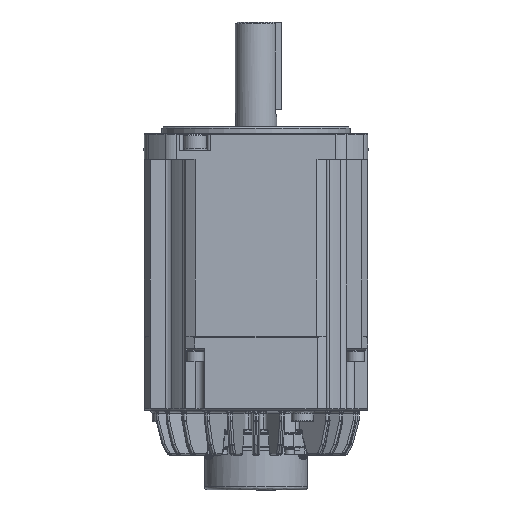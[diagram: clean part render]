
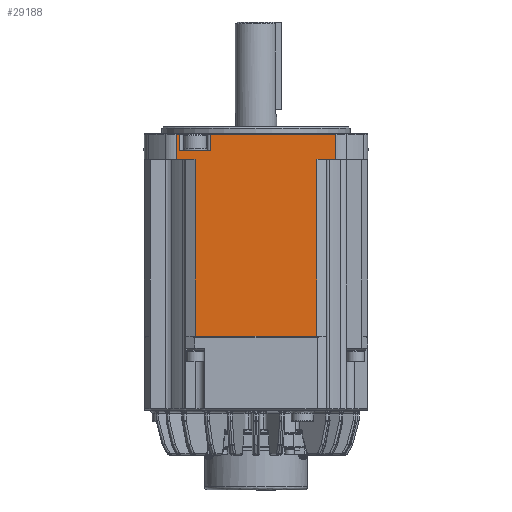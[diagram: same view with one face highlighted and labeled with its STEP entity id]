
A CAD part, front view. The second image highlights one B-rep face of the part: STEP entity #29188.
In plain terms, the highlighted planar face has unit normal (0, -1, 0) as drawn and (0, 0, -1) by its records, which use the part's own axes.
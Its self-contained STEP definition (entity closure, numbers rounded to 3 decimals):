
#791 = ORIENTED_EDGE ( 'NONE', *, *, #105138, .F. ) ;
#1121 = VECTOR ( 'NONE', #87334, 1000. ) ;
#1450 = CARTESIAN_POINT ( 'NONE',  ( 96.465, -1.2, -130. ) ) ;
#2605 = VECTOR ( 'NONE', #58207, 1000. ) ;
#4847 = ORIENTED_EDGE ( 'NONE', *, *, #13057, .F. ) ;
#6253 = ORIENTED_EDGE ( 'NONE', *, *, #157070, .F. ) ;
#8591 = CARTESIAN_POINT ( 'NONE',  ( 96.465, 8.5, -130. ) ) ;
#12451 = CARTESIAN_POINT ( 'NONE',  ( 3.535, -1.2, -130. ) ) ;
#12743 = LINE ( 'NONE', #147936, #1121 ) ;
#13057 = EDGE_CURVE ( 'NONE', #83603, #50933, #40828, .T. ) ;
#17790 = CARTESIAN_POINT ( 'NONE',  ( 96.465, 116.5, -130. ) ) ;
#19756 = EDGE_CURVE ( 'NONE', #147297, #141580, #30219, .T. ) ;
#22095 = LINE ( 'NONE', #69653, #148375 ) ;
#22104 = CARTESIAN_POINT ( 'NONE',  ( 85.501, 13.5, -130. ) ) ;
#22358 = VECTOR ( 'NONE', #85172, 1000. ) ;
#22805 = EDGE_CURVE ( 'NONE', #137753, #25601, #26035, .T. ) ;
#23689 = VECTOR ( 'NONE', #25134, 1000. ) ;
#23794 = CARTESIAN_POINT ( 'NONE',  ( 23.5, -1., -130. ) ) ;
#25134 = DIRECTION ( 'NONE',  ( -1., 0., 0. ) ) ;
#25186 = DIRECTION ( 'NONE',  ( 0., -1., 0. ) ) ;
#25283 = ORIENTED_EDGE ( 'NONE', *, *, #69495, .F. ) ;
#25379 = CARTESIAN_POINT ( 'NONE',  ( 16.289, 8.5, -130. ) ) ;
#25601 = VERTEX_POINT ( 'NONE', #112190 ) ;
#26035 = LINE ( 'NONE', #122351, #152307 ) ;
#28595 = CARTESIAN_POINT ( 'NONE',  ( 96.465, -1., -130. ) ) ;
#28707 = VECTOR ( 'NONE', #118694, 1000. ) ;
#29188 = ADVANCED_FACE ( 'NONE', ( #84636 ), #77671, .F. ) ;
#29922 = DIRECTION ( 'NONE',  ( 0., 1., 0. ) ) ;
#30198 = DIRECTION ( 'NONE',  ( -1., 0., 0. ) ) ;
#30219 = LINE ( 'NONE', #72858, #124056 ) ;
#30658 = VERTEX_POINT ( 'NONE', #89906 ) ;
#31092 = EDGE_CURVE ( 'NONE', #90141, #83603, #97221, .T. ) ;
#31681 = VECTOR ( 'NONE', #62950, 1000. ) ;
#31814 = CARTESIAN_POINT ( 'NONE',  ( 50., 116.5, -130. ) ) ;
#31950 = VECTOR ( 'NONE', #47351, 1000. ) ;
#32470 = CARTESIAN_POINT ( 'NONE',  ( 23.5, 8.5, -130. ) ) ;
#34129 = EDGE_CURVE ( 'NONE', #63306, #90141, #129343, .T. ) ;
#35438 = LINE ( 'NONE', #8591, #2605 ) ;
#36671 = DIRECTION ( 'NONE',  ( 0., 1., 0. ) ) ;
#39610 = CARTESIAN_POINT ( 'NONE',  ( 23.5, -1.2, -130. ) ) ;
#40279 = LINE ( 'NONE', #1450, #137841 ) ;
#40828 = LINE ( 'NONE', #86539, #134576 ) ;
#41006 = DIRECTION ( 'NONE',  ( 0., -1., 0. ) ) ;
#44525 = ORIENTED_EDGE ( 'NONE', *, *, #72509, .F. ) ;
#47351 = DIRECTION ( 'NONE',  ( -1., 0., 0. ) ) ;
#50306 = ORIENTED_EDGE ( 'NONE', *, *, #22805, .F. ) ;
#50771 = EDGE_CURVE ( 'NONE', #153089, #59045, #156283, .T. ) ;
#50933 = VERTEX_POINT ( 'NONE', #12451 ) ;
#52092 = AXIS2_PLACEMENT_3D ( 'NONE', #28595, #114336, #41006 ) ;
#58207 = DIRECTION ( 'NONE',  ( 1., 0., 0. ) ) ;
#59045 = VERTEX_POINT ( 'NONE', #39610 ) ;
#59253 = LINE ( 'NONE', #91699, #116496 ) ;
#60690 = ORIENTED_EDGE ( 'NONE', *, *, #150964, .F. ) ;
#61786 = VERTEX_POINT ( 'NONE', #142050 ) ;
#62407 = CARTESIAN_POINT ( 'NONE',  ( 96.465, 116.5, -130. ) ) ;
#62950 = DIRECTION ( 'NONE',  ( 0., -1., 0. ) ) ;
#63306 = VERTEX_POINT ( 'NONE', #102970 ) ;
#64313 = EDGE_CURVE ( 'NONE', #59045, #137753, #12743, .T. ) ;
#65891 = VECTOR ( 'NONE', #30198, 1000. ) ;
#66431 = EDGE_LOOP ( 'NONE', ( #50306, #139466, #67065, #6253, #44525, #101706, #791, #113925, #4847, #99801, #140527, #25283, #60690, #120861, #120274 ) ) ;
#67065 = ORIENTED_EDGE ( 'NONE', *, *, #50771, .F. ) ;
#69495 = EDGE_CURVE ( 'NONE', #100317, #63306, #98320, .T. ) ;
#69653 = CARTESIAN_POINT ( 'NONE',  ( 96.465, 13.5, -130. ) ) ;
#71285 = VECTOR ( 'NONE', #143463, 1000. ) ;
#72509 = EDGE_CURVE ( 'NONE', #61786, #91641, #101675, .T. ) ;
#72858 = CARTESIAN_POINT ( 'NONE',  ( 85.501, -1., -130. ) ) ;
#77671 = PLANE ( 'NONE',  #52092 ) ;
#80715 = EDGE_CURVE ( 'NONE', #128327, #61786, #35438, .T. ) ;
#81947 = DIRECTION ( 'NONE',  ( -1., 0., 0. ) ) ;
#83603 = VERTEX_POINT ( 'NONE', #155968 ) ;
#83943 = EDGE_CURVE ( 'NONE', #25601, #147297, #22095, .T. ) ;
#84427 = CARTESIAN_POINT ( 'NONE',  ( 96.465, 13.5, -130. ) ) ;
#84636 = FACE_OUTER_BOUND ( 'NONE', #66431, .T. ) ;
#84808 = CARTESIAN_POINT ( 'NONE',  ( 85.501, 116.5, -130. ) ) ;
#85172 = DIRECTION ( 'NONE',  ( 0., -1., 0. ) ) ;
#86539 = CARTESIAN_POINT ( 'NONE',  ( 3.535, -1., -130. ) ) ;
#87334 = DIRECTION ( 'NONE',  ( 1., 0., 0. ) ) ;
#87575 = DIRECTION ( 'NONE',  ( 1., 0., 0. ) ) ;
#89906 = CARTESIAN_POINT ( 'NONE',  ( 5.5, -1.2, -130. ) ) ;
#90141 = VERTEX_POINT ( 'NONE', #115219 ) ;
#91641 = VERTEX_POINT ( 'NONE', #25379 ) ;
#91699 = CARTESIAN_POINT ( 'NONE',  ( 5.5, -1., -130. ) ) ;
#97221 = LINE ( 'NONE', #84427, #31950 ) ;
#97845 = DIRECTION ( 'NONE',  ( 0., 1., 0. ) ) ;
#98320 = LINE ( 'NONE', #17790, #65891 ) ;
#99801 = ORIENTED_EDGE ( 'NONE', *, *, #31092, .F. ) ;
#100317 = VERTEX_POINT ( 'NONE', #31814 ) ;
#101675 = LINE ( 'NONE', #106487, #28707 ) ;
#101706 = ORIENTED_EDGE ( 'NONE', *, *, #80715, .F. ) ;
#102125 = EDGE_CURVE ( 'NONE', #50933, #30658, #40279, .T. ) ;
#102970 = CARTESIAN_POINT ( 'NONE',  ( 14.499, 116.5, -130. ) ) ;
#105138 = EDGE_CURVE ( 'NONE', #30658, #128327, #59253, .T. ) ;
#106271 = CARTESIAN_POINT ( 'NONE',  ( 96.465, 8.5, -130. ) ) ;
#106487 = CARTESIAN_POINT ( 'NONE',  ( 96.465, 8.5, -130. ) ) ;
#112190 = CARTESIAN_POINT ( 'NONE',  ( 96.465, 13.5, -130. ) ) ;
#112493 = CARTESIAN_POINT ( 'NONE',  ( 14.499, -1., -130. ) ) ;
#113925 = ORIENTED_EDGE ( 'NONE', *, *, #102125, .F. ) ;
#114336 = DIRECTION ( 'NONE',  ( 0., 0., 1. ) ) ;
#115219 = CARTESIAN_POINT ( 'NONE',  ( 14.499, 13.5, -130. ) ) ;
#116496 = VECTOR ( 'NONE', #29922, 1000. ) ;
#118694 = DIRECTION ( 'NONE',  ( 1., 0., 0. ) ) ;
#120274 = ORIENTED_EDGE ( 'NONE', *, *, #83943, .F. ) ;
#120861 = ORIENTED_EDGE ( 'NONE', *, *, #19756, .F. ) ;
#121502 = LINE ( 'NONE', #62407, #23689 ) ;
#122006 = CARTESIAN_POINT ( 'NONE',  ( 96.465, -1.2, -130. ) ) ;
#122351 = CARTESIAN_POINT ( 'NONE',  ( 96.465, -1., -130. ) ) ;
#124056 = VECTOR ( 'NONE', #36671, 1000. ) ;
#128327 = VERTEX_POINT ( 'NONE', #143540 ) ;
#129343 = LINE ( 'NONE', #112493, #31681 ) ;
#134576 = VECTOR ( 'NONE', #25186, 1000. ) ;
#135962 = LINE ( 'NONE', #106271, #71285 ) ;
#137753 = VERTEX_POINT ( 'NONE', #122006 ) ;
#137841 = VECTOR ( 'NONE', #87575, 1000. ) ;
#139466 = ORIENTED_EDGE ( 'NONE', *, *, #64313, .F. ) ;
#140527 = ORIENTED_EDGE ( 'NONE', *, *, #34129, .F. ) ;
#141580 = VERTEX_POINT ( 'NONE', #84808 ) ;
#142050 = CARTESIAN_POINT ( 'NONE',  ( 12.711, 8.5, -130. ) ) ;
#143463 = DIRECTION ( 'NONE',  ( 1., 0., 0. ) ) ;
#143540 = CARTESIAN_POINT ( 'NONE',  ( 5.5, 8.5, -130. ) ) ;
#147297 = VERTEX_POINT ( 'NONE', #22104 ) ;
#147936 = CARTESIAN_POINT ( 'NONE',  ( 96.465, -1.2, -130. ) ) ;
#148375 = VECTOR ( 'NONE', #81947, 1000. ) ;
#150964 = EDGE_CURVE ( 'NONE', #141580, #100317, #121502, .T. ) ;
#152307 = VECTOR ( 'NONE', #97845, 1000. ) ;
#153089 = VERTEX_POINT ( 'NONE', #32470 ) ;
#155968 = CARTESIAN_POINT ( 'NONE',  ( 3.535, 13.5, -130. ) ) ;
#156283 = LINE ( 'NONE', #23794, #22358 ) ;
#157070 = EDGE_CURVE ( 'NONE', #91641, #153089, #135962, .T. ) ;
